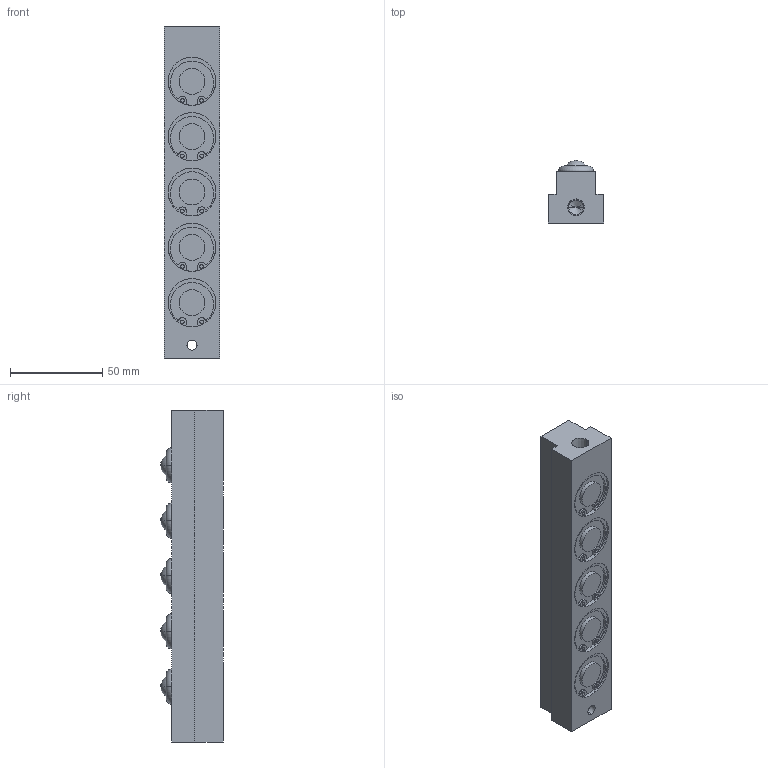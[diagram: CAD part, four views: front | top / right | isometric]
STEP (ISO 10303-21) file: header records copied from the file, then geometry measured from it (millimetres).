
FILE_DESCRIPTION (( 'STEP AP203' ), '1' );
FILE_NAME ('PVL20T-5.STEP', '2015-12-24T07:08:55', ( '' ), ( '' ), 'SwSTEP 2.0', 'SolidWorks 2013', '' );
FILE_SCHEMA (( 'CONFIG_CONTROL_DESIGN' ));
Length unit declared in the file: millimetre
Products named in the file (1): PVL20T-5
Bounding box: 30 x 34 x 180 mm (x, y, z)
Volume: 131260.1 mm3; surface area: 25243.6 mm2
Topology: 1 solids, 1 shells, 162 faces, 387 edges, 258 vertices
Faces by surface type: cylinder 86, plane 52, torus 10, sphere 10, cone 4
Entity records: 4898 total; most frequent: DIRECTION 947, CARTESIAN_POINT 806, ORIENTED_EDGE 770, AXIS2_PLACEMENT_3D 399, EDGE_CURVE 385, VERTEX_POINT 258, CIRCLE 236, EDGE_LOOP 197
